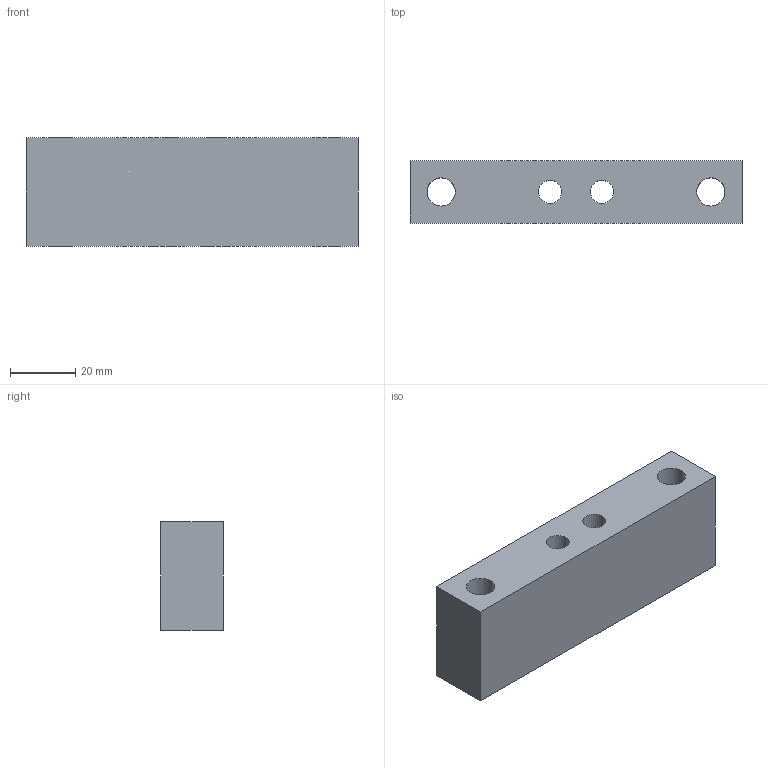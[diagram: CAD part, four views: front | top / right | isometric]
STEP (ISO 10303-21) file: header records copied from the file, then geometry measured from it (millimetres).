
FILE_DESCRIPTION (( 'STEP AP203' ), '1' );
FILE_NAME ('269-18-302.STEP', '2020-03-02T22:26:24', ( '' ), ( '' ), 'SwSTEP 2.0', 'SolidWorks 2017', '' );
FILE_SCHEMA (( 'CONFIG_CONTROL_DESIGN' ));
Length unit declared in the file: inch
Products named in the file (1): 269-18-302
Bounding box: 101.6 x 19.05 x 33.32 mm (x, y, z)
Volume: 55638.8 mm3; surface area: 15343.4 mm2
Topology: 1 solids, 1 shells, 20 faces, 48 edges, 32 vertices
Faces by surface type: cylinder 12, plane 8
Entity records: 691 total; most frequent: DIRECTION 114, CARTESIAN_POINT 101, ORIENTED_EDGE 96, EDGE_CURVE 48, AXIS2_PLACEMENT_3D 45, VERTEX_POINT 32, EDGE_LOOP 30, VECTOR 24
